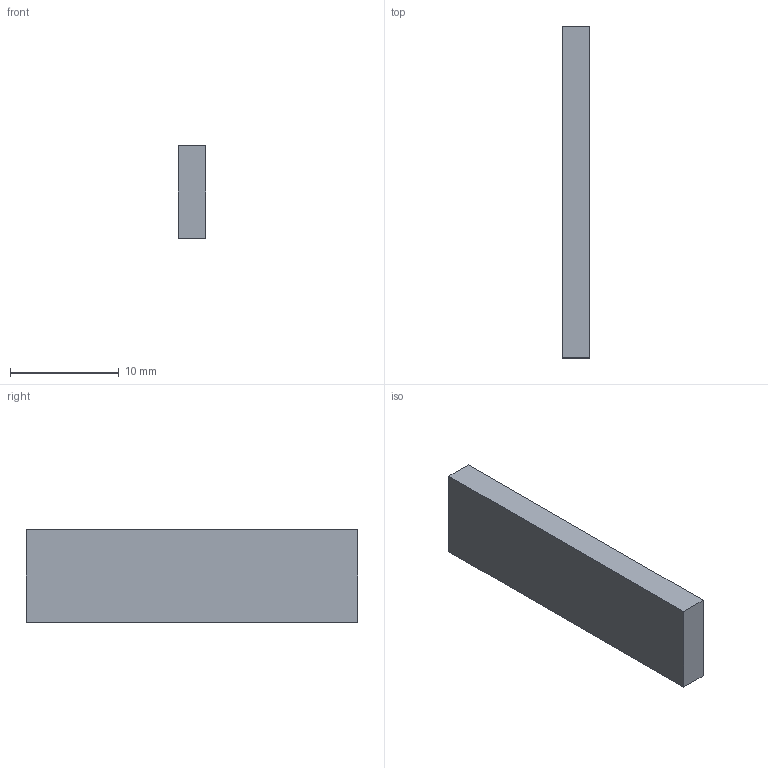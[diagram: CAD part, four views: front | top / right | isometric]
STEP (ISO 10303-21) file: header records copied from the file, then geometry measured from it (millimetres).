
FILE_DESCRIPTION(('Through-hole socket strip 1x12, 2.54 mm pitch -- body envelope 8.50 mm tall (2.54 mm socket strip, mating height (ICD-EEG-006 section 4))'),'2;1');
FILE_NAME('PinSocket_1x12_P2.54mm_Vertical','2026-09-08T00:00:00',('TI One Voice research programme'),(''),'EEG-CAR-01 step_write.py','','CC BY-SA 4.0');
FILE_SCHEMA(('AUTOMOTIVE_DESIGN { 1 0 10303 214 1 1 1 1 }'));
Length unit declared in the file: millimetre
Products named in the file (1): PinSocket_1x12_P2.54mm_Vertical
Bounding box: 2.54 x 30.48 x 8.5 mm (x, y, z)
Volume: 658.1 mm3; surface area: 716.2 mm2
Topology: 1 solids, 1 shells, 6 faces, 12 edges, 8 vertices
Faces by surface type: plane 6
Entity records: 67 total; most frequent: DIRECTION 14, CARTESIAN_POINT 9, AXIS2_PLACEMENT_3D 7, POLY_LOOP 6, FACE_OUTER_BOUND 6, PLANE 6, FACE_SURFACE 6, UNCERTAINTY_MEASURE_WITH_UNIT 1
